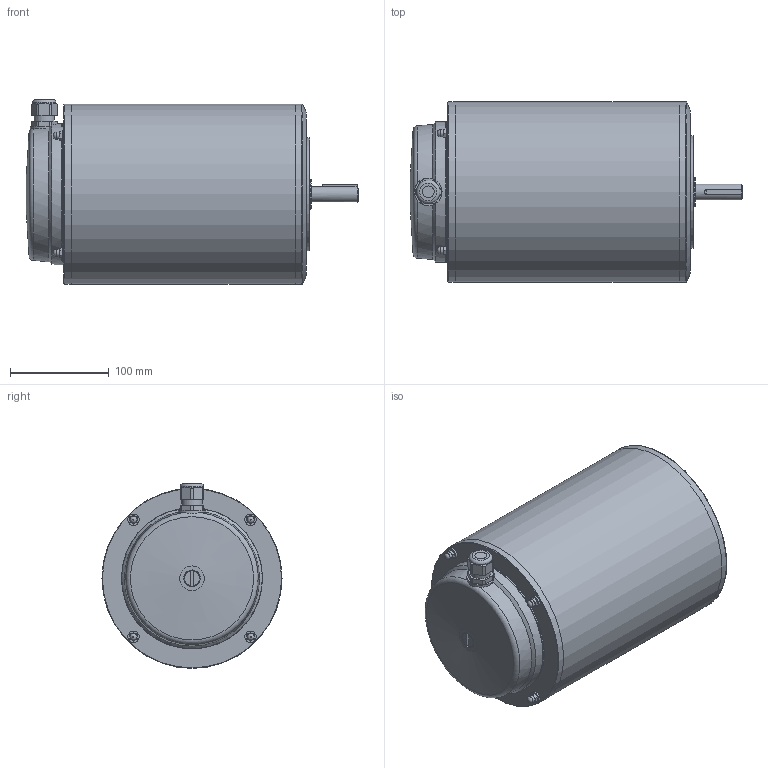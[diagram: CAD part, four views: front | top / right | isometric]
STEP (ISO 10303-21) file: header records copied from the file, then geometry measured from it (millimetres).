
FILE_DESCRIPTION(/* description */ ('Unknown'),/* implementation_level */ '2;1');
FILE_NAME(/* name */ 'APMWHB4WTUNN4KCR2-N---NNN',/* time_stamp */ '2024-03-15T08:24:45+01:00',/* author */ ('Unknown'),/* organization */ ('Unknown'),/* preprocessor_version */ 'ST-DEVELOPER v18.104',/* originating_system */ 'Solid Edge',/* authorisation */ 'Unknown');
FILE_SCHEMA (('AUTOMOTIVE_DESIGN {1 0 10303 214 3 1 1}'));
Length unit declared in the file: millimetre
Products named in the file (1): APMWHB4WTUNN4KCR2-N---NNN
Bounding box: 336.6 x 182.6 x 187.3 mm (x, y, z)
Volume: 6969608.1 mm3; surface area: 218876.1 mm2
Topology: 1 solids, 1 shells, 156 faces, 349 edges, 224 vertices
Faces by surface type: plane 80, cylinder 49, cone 18, torus 9
Full cylindrical faces by diameter (mm): 4.976 x2, 6.5 x1, 7 x4, 7.805 x8, 11.5 x4, 12 x1, 15.875 x1, 20.6 x1, 23.7 x1, 30 x1, 82 x1, 114.3 x1, 143 x1, 182.599 x1, 182.6 x2
Entity records: 5116 total; most frequent: CARTESIAN_POINT 750, DIRECTION 689, ORIENTED_EDGE 568, EDGE_CURVE 284, AXIS2_PLACEMENT_3D 272, FACE_BOUND 238, EDGE_LOOP 237, VERTEX_POINT 212
